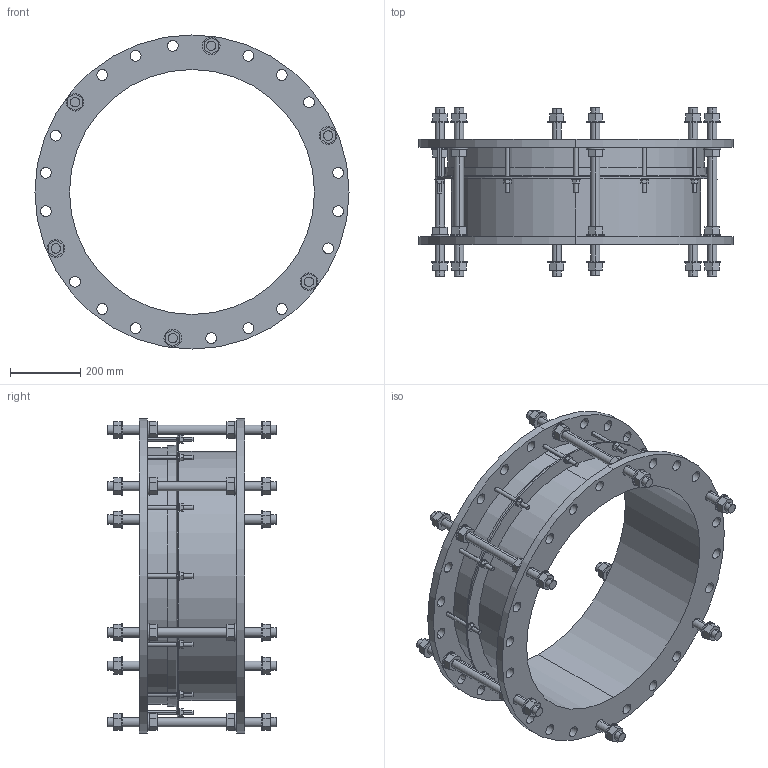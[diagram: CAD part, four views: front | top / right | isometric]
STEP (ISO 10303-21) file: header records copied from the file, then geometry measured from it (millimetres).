
FILE_DESCRIPTION((''),'2;1');
FILE_NAME('LO2_DJ_BIM_ASM','2020-11-04T',('mfairey'),('Glynwed Pipe Systems'),'CREO PARAMETRIC BY PTC INC, 2016130','CREO PARAMETRIC BY PTC INC, 2016130','');
FILE_SCHEMA(('CONFIG_CONTROL_DESIGN'));
Length unit declared in the file: millimetre
Products named in the file (3): DJ_AF0; TIE_BOLT_BIM; LO2_DJ_BIM_ASM
Assembly tree (7 placements, depth 2):
  LO2_DJ_BIM_ASM
    DJ_AF0
    TIE_BOLT_BIM  x6
Bounding box: 895 x 480 x 895 mm (x, y, z)
Volume: 19460893.1 mm3; surface area: 2928300.1 mm2
Topology: 7 solids, 7 shells, 646 faces, 1574 edges, 1040 vertices
Faces by surface type: plane 354, cylinder 288, cone 4
Entity records: 12328 total; most frequent: CARTESIAN_POINT 2664, DIRECTION 2092, ORIENTED_EDGE 1888, EDGE_CURVE 944, AXIS2_PLACEMENT_3D 800, VERTEX_POINT 620, EDGE_LOOP 526, VECTOR 492
